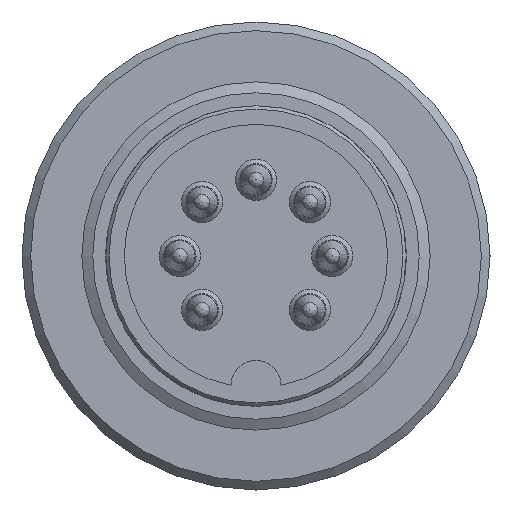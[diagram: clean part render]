
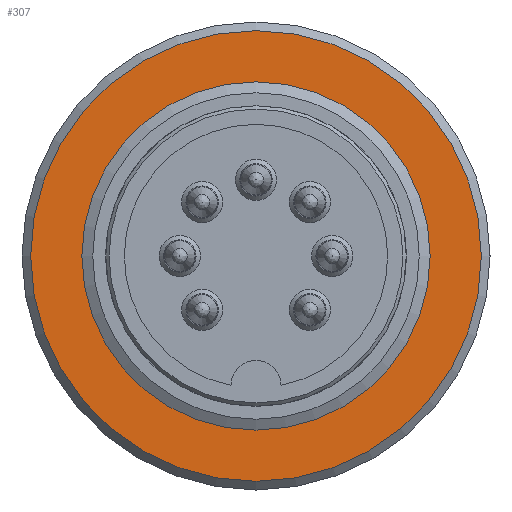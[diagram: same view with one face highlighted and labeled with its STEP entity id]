
A CAD part, left-side view. The second image highlights one B-rep face of the part: STEP entity #307.
In plain terms, the highlighted planar face has unit normal (-1, 0, 0).
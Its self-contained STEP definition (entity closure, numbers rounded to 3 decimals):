
#114=PLANE('',#1611);
#160=FACE_BOUND('',#503,.T.);
#161=FACE_BOUND('',#504,.T.);
#307=ADVANCED_FACE('',(#160,#161),#114,.F.);
#503=EDGE_LOOP('',(#894));
#504=EDGE_LOOP('',(#895));
#673=CIRCLE('',#1607,7.5);
#674=CIRCLE('',#1610,10.35);
#894=ORIENTED_EDGE('',*,*,#1314,.T.);
#895=ORIENTED_EDGE('',*,*,#1313,.T.);
#1149=VERTEX_POINT('',#2408);
#1150=VERTEX_POINT('',#2412);
#1313=EDGE_CURVE('',#1149,#1149,#673,.T.);
#1314=EDGE_CURVE('',#1150,#1150,#674,.T.);
#1607=AXIS2_PLACEMENT_3D('',#2407,#1909,#1910);
#1610=AXIS2_PLACEMENT_3D('',#2411,#1915,#1916);
#1611=AXIS2_PLACEMENT_3D('',#2413,#1917,#1918);
#1909=DIRECTION('',(1.,0.,0.));
#1910=DIRECTION('',(0.,0.,-1.));
#1915=DIRECTION('',(-1.,0.,0.));
#1916=DIRECTION('',(0.,0.,-1.));
#1917=DIRECTION('',(1.,0.,0.));
#1918=DIRECTION('',(0.,0.,1.));
#2407=CARTESIAN_POINT('',(-0.6,0.,0.));
#2408=CARTESIAN_POINT('',(-0.6,0.,-7.5));
#2411=CARTESIAN_POINT('',(-0.6,0.,0.));
#2412=CARTESIAN_POINT('',(-0.6,0.,-10.35));
#2413=CARTESIAN_POINT('',(-0.6,0.,0.));
